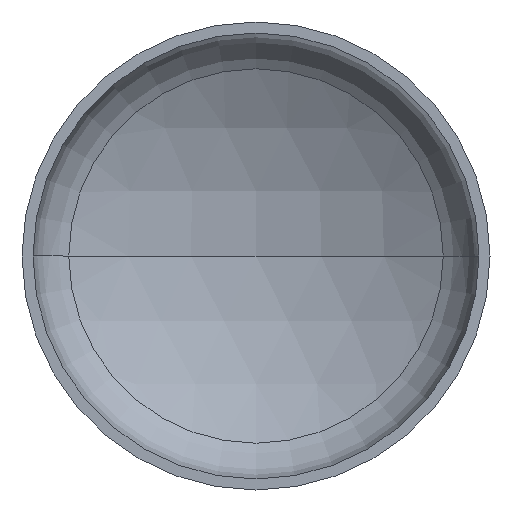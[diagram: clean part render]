
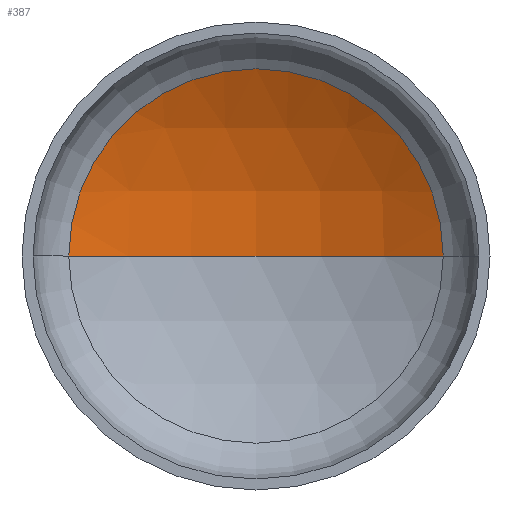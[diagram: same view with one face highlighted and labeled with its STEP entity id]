
A CAD part, front view. The second image highlights one B-rep face of the part: STEP entity #387.
In plain terms, the highlighted spherical face has radius 1360 mm.
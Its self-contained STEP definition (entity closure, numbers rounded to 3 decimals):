
#1 = AXIS2_PLACEMENT_3D ( 'NONE', #185, #361, #212 ) ;
#7 = AXIS2_PLACEMENT_3D ( 'NONE', #183, #302, #143 ) ;
#17 = AXIS2_PLACEMENT_3D ( 'NONE', #69, #74, #118 ) ;
#22 = EDGE_LOOP ( 'NONE', ( #99, #157, #117 ) ) ;
#42 = DIRECTION ( 'NONE',  ( 0., 0., -1. ) ) ;
#47 = VERTEX_POINT ( 'NONE', #239 ) ;
#69 = CARTESIAN_POINT ( 'NONE',  ( 0., 345.167, 0. ) ) ;
#74 = DIRECTION ( 'NONE',  ( 0., -1., 0. ) ) ;
#99 = ORIENTED_EDGE ( 'NONE', *, *, #367, .F. ) ;
#101 = CARTESIAN_POINT ( 'NONE',  ( 0., -832.628, 0. ) ) ;
#117 = ORIENTED_EDGE ( 'NONE', *, *, #304, .T. ) ;
#118 = DIRECTION ( 'NONE',  ( 1., 0., 0. ) ) ;
#143 = DIRECTION ( 'NONE',  ( 1., 0., 0. ) ) ;
#149 = VERTEX_POINT ( 'NONE', #186 ) ;
#157 = ORIENTED_EDGE ( 'NONE', *, *, #369, .T. ) ;
#168 = CIRCLE ( 'NONE', #17, 680. ) ;
#183 = CARTESIAN_POINT ( 'NONE',  ( 0., -832.628, 0. ) ) ;
#185 = CARTESIAN_POINT ( 'NONE',  ( 0., -832.628, 0. ) ) ;
#186 = CARTESIAN_POINT ( 'NONE',  ( 680., 345.167, 0. ) ) ;
#212 = DIRECTION ( 'NONE',  ( -1., 0., 0. ) ) ;
#214 = FACE_OUTER_BOUND ( 'NONE', #22, .T. ) ;
#231 = CARTESIAN_POINT ( 'NONE',  ( -680., 345.167, 0. ) ) ;
#239 = CARTESIAN_POINT ( 'NONE',  ( 0., 527.372, 0. ) ) ;
#302 = DIRECTION ( 'NONE',  ( 0., 0., 1. ) ) ;
#304 = EDGE_CURVE ( 'NONE', #149, #346, #168, .T. ) ;
#344 = CIRCLE ( 'NONE', #7, 1360. ) ;
#346 = VERTEX_POINT ( 'NONE', #231 ) ;
#361 = DIRECTION ( 'NONE',  ( 0., 0., -1. ) ) ;
#367 = EDGE_CURVE ( 'NONE', #47, #346, #344, .T. ) ;
#369 = EDGE_CURVE ( 'NONE', #47, #149, #407, .T. ) ;
#381 = DIRECTION ( 'NONE',  ( -1., 0., 0. ) ) ;
#387 = ADVANCED_FACE ( 'NONE', ( #214 ), #400, .F. ) ;
#390 = AXIS2_PLACEMENT_3D ( 'NONE', #101, #42, #381 ) ;
#400 = SPHERICAL_SURFACE ( 'NONE', #390, 1360. ) ;
#407 = CIRCLE ( 'NONE', #1, 1360. ) ;
